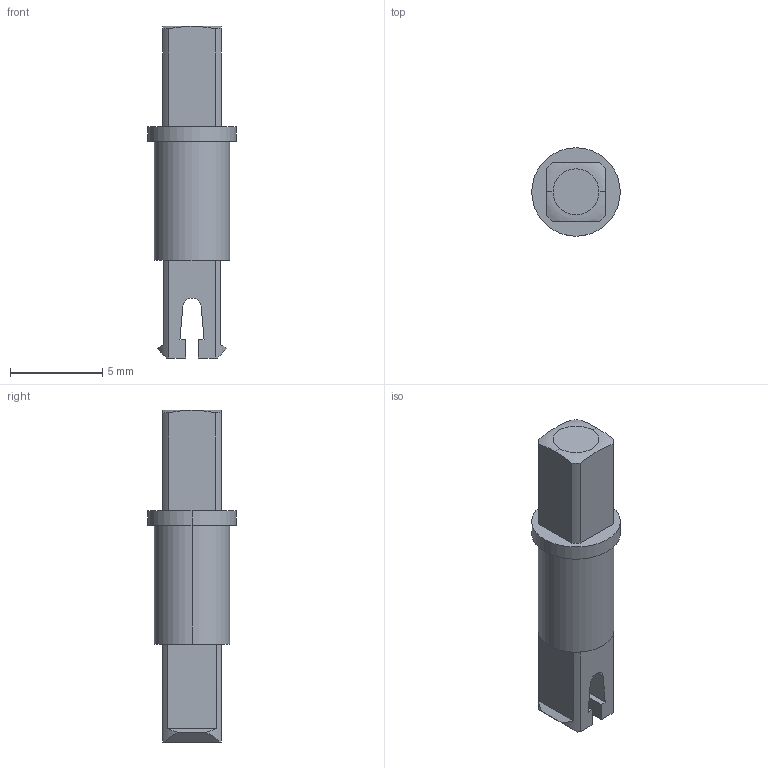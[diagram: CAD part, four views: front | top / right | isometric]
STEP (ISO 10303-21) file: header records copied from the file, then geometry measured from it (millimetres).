
FILE_DESCRIPTION (( 'STEP AP214' ), '1' );
FILE_NAME ('228-2500-328.STEP', '2021-02-18T20:00:13', ( '' ), ( '' ), 'SwSTEP 2.0', 'SolidWorks 2019', '' );
FILE_SCHEMA (( 'AUTOMOTIVE_DESIGN' ));
Length unit declared in the file: millimetre
Products named in the file (1): 228-2500-328
Bounding box: 4.8 x 4.8 x 18.01 mm (x, y, z)
Volume: 194.7 mm3; surface area: 275.8 mm2
Topology: 1 solids, 1 shells, 39 faces, 102 edges, 68 vertices
Faces by surface type: plane 24, cylinder 13, torus 2
Entity records: 1262 total; most frequent: CARTESIAN_POINT 268, ORIENTED_EDGE 204, DIRECTION 198, EDGE_CURVE 102, AXIS2_PLACEMENT_3D 70, VERTEX_POINT 68, LINE 58, VECTOR 58
